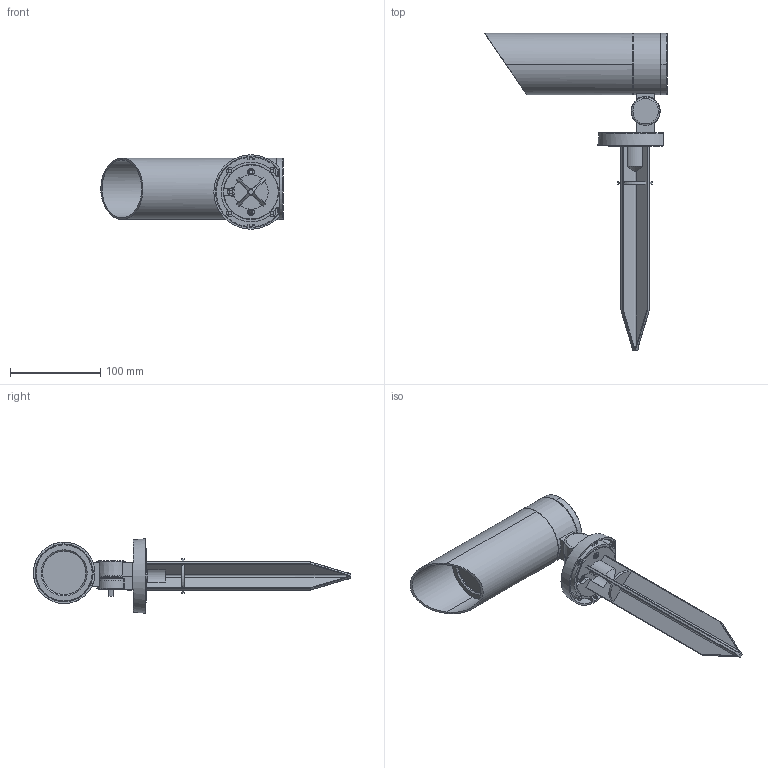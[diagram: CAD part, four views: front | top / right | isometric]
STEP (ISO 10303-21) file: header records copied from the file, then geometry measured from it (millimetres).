
FILE_DESCRIPTION((''),'2;1');
FILE_NAME('ASM0003_ASM_ASM_1_ASM_1_ASM_1_A_ASM','2024-11-23T',('C028'),(''),'CREO PARAMETRIC BY PTC INC, 2014190','CREO PARAMETRIC BY PTC INC, 2014190','');
FILE_SCHEMA(('CONFIG_CONTROL_DESIGN'));
Length unit declared in the file: millimetre
Products named in the file (25): COVER_B_L_2_1_1_1_5_1; PRT0025_1_1_1_1_5_1; PRT0030_1_1_1_5_1; PRT0031_1_1_1_5_1; ASM0005_ASM_ASM_1_ASM_1_ASM_1_A_ASM; PRT0032_1_1_1_5_1; PRT0033_1_1_1_5_1; PRT0034_1_1_1_5_1; ASM0004_ASM_ASM_1_ASM_1_ASM_1_A_ASM; PRT0035_1_1_1_5_1; PRT0036_1_1_1_5_1; 3TO_____1_1_1_5_1; PRT0028_1_1_1_5_1; 512A_1; 0_GB_2_1_1_58_1; PRT0025_1_1_1_19_1; _A_1_ASM; PRT0021_1; 16A_19_1_1; M5_17_1_1; 16_ASM_16_ASM_1_ASM_1_ASM; 16_ASM_ASM_1_ASM_1_ASM; _18A_ASM_1_ASM; ASM0003_ASM_ASM_1_ASM_1_ASM_1_1_ASM; ASM0003_ASM_ASM_1_ASM_1_ASM_1_A_ASM
Assembly tree (26 placements, depth 6):
  ASM0003_ASM_ASM_1_ASM_1_ASM_1_A_ASM
    ASM0003_ASM_ASM_1_ASM_1_ASM_1_1_ASM
      COVER_B_L_2_1_1_1_5_1
      PRT0025_1_1_1_1_5_1
      ASM0004_ASM_ASM_1_ASM_1_ASM_1_A_ASM
        ASM0005_ASM_ASM_1_ASM_1_ASM_1_A_ASM
          PRT0030_1_1_1_5_1
          PRT0031_1_1_1_5_1
        PRT0032_1_1_1_5_1
        PRT0033_1_1_1_5_1  x2
        PRT0034_1_1_1_5_1
      PRT0035_1_1_1_5_1
      PRT0036_1_1_1_5_1
      3TO_____1_1_1_5_1
      PRT0028_1_1_1_5_1
      512A_1
      0_GB_2_1_1_58_1
      PRT0025_1_1_1_19_1
      _A_1_ASM
      PRT0021_1
      _18A_ASM_1_ASM
        16_ASM_ASM_1_ASM_1_ASM
          16_ASM_16_ASM_1_ASM_1_ASM
            16A_19_1_1
            M5_17_1_1  x2
Bounding box: 201.8 x 351 x 82.45 mm (x, y, z)
Volume: 342177.9 mm3; surface area: 237099.1 mm2
Topology: 17 solids, 17 shells, 1375 faces, 3628 edges, 2339 vertices
Faces by surface type: cylinder 603, plane 406, bspline 179, cone 147, torus 32, sphere 8
Entity records: 61623 total; most frequent: CARTESIAN_POINT 30183, ORIENTED_EDGE 6674, DIRECTION 6303, EDGE_CURVE 3337, AXIS2_PLACEMENT_3D 2448, VERTEX_POINT 2151, VECTOR 1407, LINE 1407
